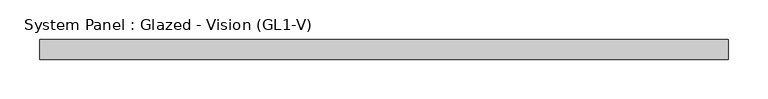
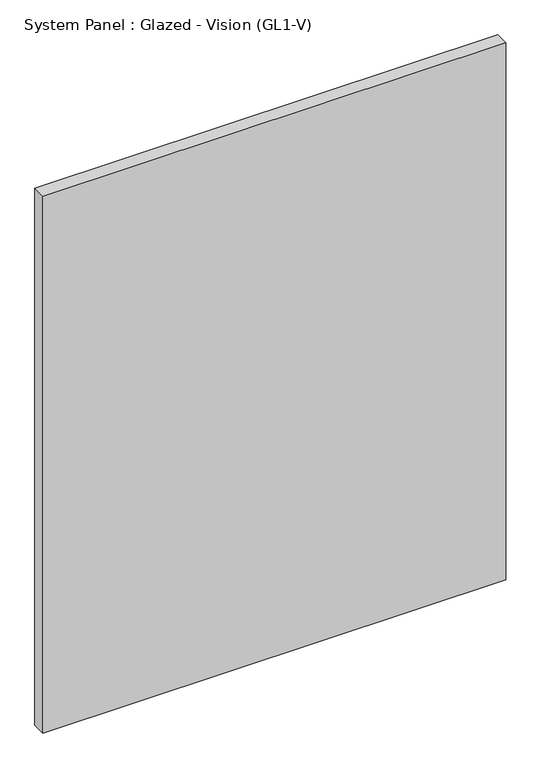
"""IFC4 building model written with IfcOpenShell, lengths in millimetres: plate geometry, System Panel : Glazed - Vision (GL1-V)."""

from ifc_helpers import new_model, si_unit, origin, origin_with_axes, place, context, project, spatial, polyline, outline, extrude, source, transform, mapped, element, save


def system_panel_glazed_vision_gl1_v_8919d4df(model_context):
    return source(origin(), model_context, "Body", "SweptSolid", [
        extrude(outline(polyline([(434.9702038, -25.4), (-434.9702038, -25.4), (-434.9702038, 0.0), (434.9702038, 0.0), (434.9702038, -25.4)])), origin_with_axes(), (0.0, 0.0, 1.0), 1066.8000021),
    ])


if __name__ == "__main__":
    model = new_model("IFC4")
    model_context = context("Model", 3, world=origin())
    ifc_project = project(units=[si_unit("LENGTHUNIT", "METRE", prefix="MILLI")], contexts=[model_context])
    site = spatial("IfcSite", under=ifc_project)
    building = spatial("IfcBuilding", under=site)
    placement = place(None, origin())
    system_panel_glazed_vision_gl1_v_shape = system_panel_glazed_vision_gl1_v_8919d4df(model_context)
    element("IfcPlate", 1, ObjectType="System Panel : Glazed - Vision (GL1-V)", at=placement, inside=building, context=model_context, shape_type="MappedRepresentation", body=[
        mapped(system_panel_glazed_vision_gl1_v_shape, transform((0.0, 0.0, 0.0), x_axis=(1.0, 0.0, 0.0), y_axis=(0.0, 1.0, 0.0), z_axis=(0.0, 0.0, 1.0))),
    ])
    save(model, "model.ifc")
